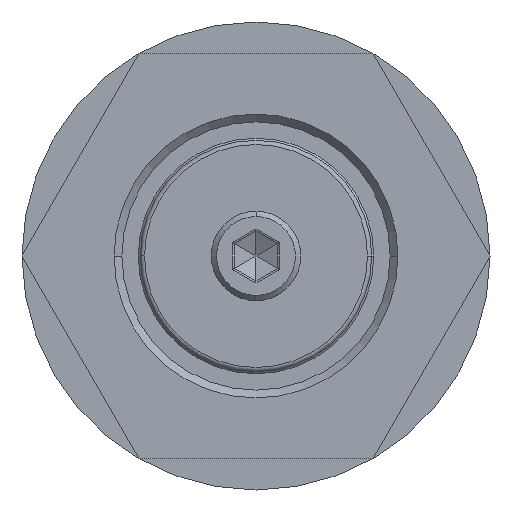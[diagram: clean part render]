
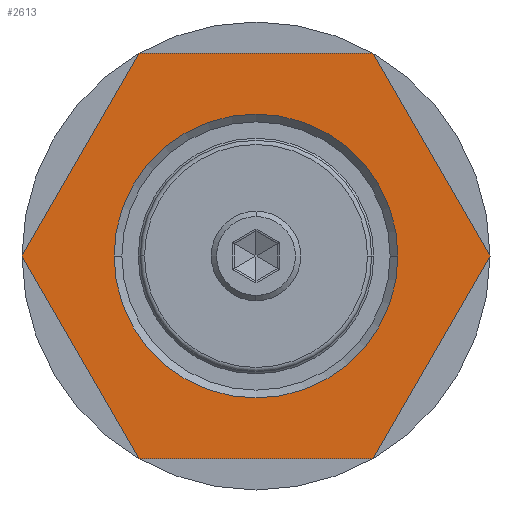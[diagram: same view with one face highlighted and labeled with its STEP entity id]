
A CAD part, left-side view. The second image highlights one B-rep face of the part: STEP entity #2613.
In plain terms, the highlighted planar face has unit normal (-1, 0, 0) as drawn and (1, 0, 0) by its records, which use the part's own axes.
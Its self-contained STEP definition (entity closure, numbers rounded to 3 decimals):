
#2222=DIRECTION('',(0.,1.,0.));
#2223=VECTOR('',#2222,22.25);
#2224=CARTESIAN_POINT('',(27.,-11.125,-19.269));
#2225=LINE('',#2224,#2223);
#2226=DIRECTION('',(0.,0.5,-0.866));
#2227=VECTOR('',#2226,22.25);
#2228=CARTESIAN_POINT('',(27.,-22.25,0.));
#2229=LINE('',#2228,#2227);
#2230=DIRECTION('',(0.,-0.5,-0.866));
#2231=VECTOR('',#2230,22.25);
#2232=CARTESIAN_POINT('',(27.,-11.125,19.269));
#2233=LINE('',#2232,#2231);
#2234=DIRECTION('',(0.,-1.,0.));
#2235=VECTOR('',#2234,22.25);
#2236=CARTESIAN_POINT('',(27.,11.125,19.269));
#2237=LINE('',#2236,#2235);
#2238=DIRECTION('',(0.,-0.5,0.866));
#2239=VECTOR('',#2238,22.25);
#2240=CARTESIAN_POINT('',(27.,22.25,0.));
#2241=LINE('',#2240,#2239);
#2242=DIRECTION('',(0.,0.5,0.866));
#2243=VECTOR('',#2242,22.25);
#2244=CARTESIAN_POINT('',(27.,11.125,-19.269));
#2245=LINE('',#2244,#2243);
#2246=CARTESIAN_POINT('',(27.,0.,0.));
#2247=DIRECTION('',(-1.,0.,0.));
#2248=DIRECTION('',(0.,1.,0.));
#2249=AXIS2_PLACEMENT_3D('',#2246,#2247,#2248);
#2251=CARTESIAN_POINT('',(27.,0.,0.));
#2252=DIRECTION('',(-1.,0.,0.));
#2253=DIRECTION('',(0.,-1.,0.));
#2254=AXIS2_PLACEMENT_3D('',#2251,#2252,#2253);
#2310=CARTESIAN_POINT('',(27.,13.5,0.));
#2311=CARTESIAN_POINT('',(27.,-13.5,0.));
#2312=VERTEX_POINT('',#2310);
#2313=VERTEX_POINT('',#2311);
#2342=CARTESIAN_POINT('',(27.,-11.125,-19.269));
#2343=CARTESIAN_POINT('',(27.,11.125,-19.269));
#2344=VERTEX_POINT('',#2342);
#2345=VERTEX_POINT('',#2343);
#2346=CARTESIAN_POINT('',(27.,22.25,0.));
#2347=VERTEX_POINT('',#2346);
#2348=CARTESIAN_POINT('',(27.,11.125,19.269));
#2349=VERTEX_POINT('',#2348);
#2350=CARTESIAN_POINT('',(27.,-11.125,19.269));
#2351=VERTEX_POINT('',#2350);
#2352=CARTESIAN_POINT('',(27.,-22.25,0.));
#2353=VERTEX_POINT('',#2352);
#2594=CARTESIAN_POINT('',(27.,0.,0.));
#2595=DIRECTION('',(1.,0.,0.));
#2596=DIRECTION('',(0.,1.,0.));
#2597=AXIS2_PLACEMENT_3D('',#2594,#2595,#2596);
#2598=PLANE('',#2597);
#2599=ORIENTED_EDGE('',*,*,#2518,.F.);
#2600=ORIENTED_EDGE('',*,*,#2533,.F.);
#2601=ORIENTED_EDGE('',*,*,#2547,.F.);
#2602=ORIENTED_EDGE('',*,*,#2561,.F.);
#2603=ORIENTED_EDGE('',*,*,#2575,.F.);
#2604=ORIENTED_EDGE('',*,*,#2588,.F.);
#2605=EDGE_LOOP('',(#2599,#2600,#2601,#2602,#2603,#2604));
#2606=FACE_OUTER_BOUND('',#2605,.F.);
#2608=ORIENTED_EDGE('',*,*,#2607,.F.);
#2610=ORIENTED_EDGE('',*,*,#2609,.F.);
#2611=EDGE_LOOP('',(#2608,#2610));
#2612=FACE_BOUND('',#2611,.F.);
#2613=ADVANCED_FACE('',(#2606,#2612),#2598,.T.);
#2250=CIRCLE('',#2249,13.5);
#2255=CIRCLE('',#2254,13.5);
#2518=EDGE_CURVE('',#2344,#2345,#2225,.T.);
#2533=EDGE_CURVE('',#2353,#2344,#2229,.T.);
#2547=EDGE_CURVE('',#2351,#2353,#2233,.T.);
#2561=EDGE_CURVE('',#2349,#2351,#2237,.T.);
#2575=EDGE_CURVE('',#2347,#2349,#2241,.T.);
#2588=EDGE_CURVE('',#2345,#2347,#2245,.T.);
#2607=EDGE_CURVE('',#2312,#2313,#2250,.T.);
#2609=EDGE_CURVE('',#2313,#2312,#2255,.T.);
